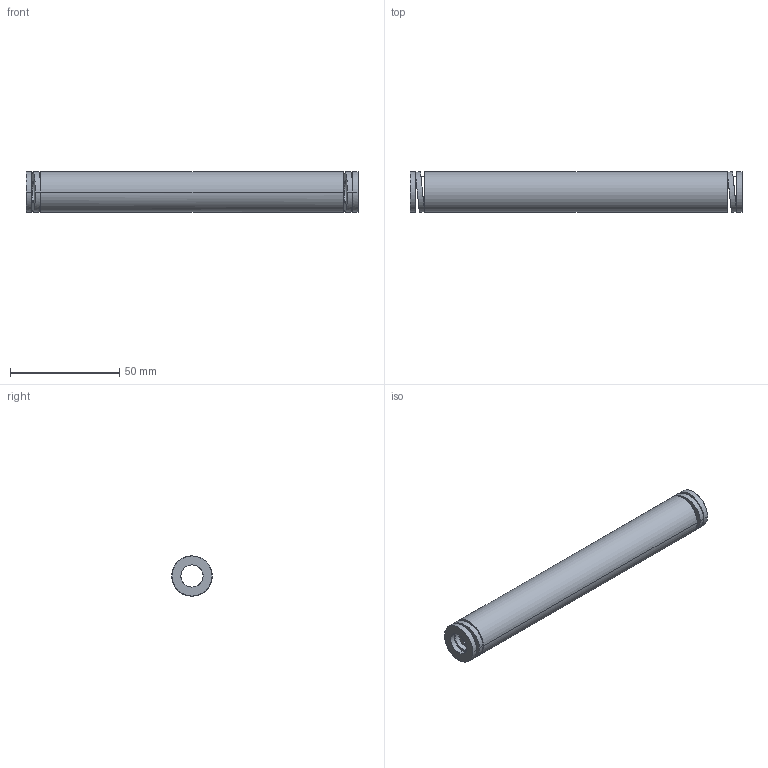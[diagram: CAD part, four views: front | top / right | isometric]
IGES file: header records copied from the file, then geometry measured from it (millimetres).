
Start section: START RECORD GO HERE.
Global section: file name: 392-B20-152.igs; native system: DASSAULT SYSTEMES CATIA V5 R20 - www.3ds.com; preprocessor: CATIA Version 5 Release 20 ; author: Utente; organization: NB04-ASUS; date: 20210812.153317; units: millimetre
Bounding box: 152 x 18.55 x 18.4 mm (x, y, z)
Surface area: 15153.6 mm2 (no closed solid volume)
Topology: 0 solids, 0 shells, 38 faces, 184 edges, 184 vertices
Faces by surface type: revolution 28, plane 10
